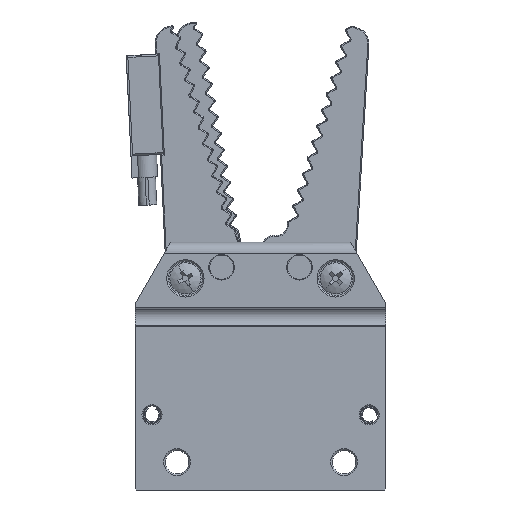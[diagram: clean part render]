
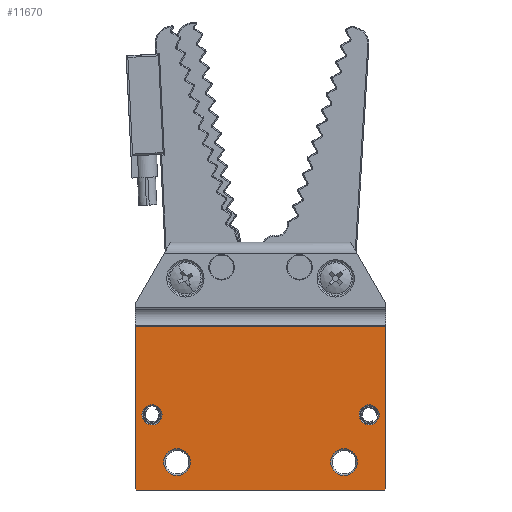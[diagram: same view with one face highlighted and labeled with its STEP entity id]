
A CAD part, front view. The second image highlights one B-rep face of the part: STEP entity #11670.
In plain terms, the highlighted planar face has unit normal (0, -1, 0).
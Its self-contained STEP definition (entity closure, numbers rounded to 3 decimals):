
#5304=PLANE('',#28905);
#6440=CIRCLE('',#28806,2.4);
#6442=CIRCLE('',#28809,2.4);
#6463=CIRCLE('',#28840,1.8);
#6466=CIRCLE('',#28844,1.8);
#7767=LINE('',#39966,#9703);
#7819=LINE('',#40094,#9755);
#7827=LINE('',#40109,#9763);
#7837=LINE('',#40139,#9773);
#7838=LINE('',#40140,#9774);
#7839=LINE('',#40141,#9775);
#9703=VECTOR('',#31859,1.);
#9755=VECTOR('',#31943,1.);
#9763=VECTOR('',#31955,1.);
#9773=VECTOR('',#31973,1.);
#9774=VECTOR('',#31974,1.);
#9775=VECTOR('',#31975,1.);
#11670=ADVANCED_FACE('',(#15071,#15072,#15073,#15074,#13577),#5304,.T.);
#13577=FACE_OUTER_BOUND('',#15311,.T.);
#15071=FACE_BOUND('',#15307,.T.);
#15072=FACE_BOUND('',#15308,.T.);
#15073=FACE_BOUND('',#15309,.T.);
#15074=FACE_BOUND('',#15310,.T.);
#15307=EDGE_LOOP('',(#17112));
#15308=EDGE_LOOP('',(#17113));
#15309=EDGE_LOOP('',(#17114));
#15310=EDGE_LOOP('',(#17115));
#15311=EDGE_LOOP('',(#17116,#17117,#17118,#17119,#17120,#17121));
#17112=ORIENTED_EDGE('',*,*,#25465,.T.);
#17113=ORIENTED_EDGE('',*,*,#25463,.T.);
#17114=ORIENTED_EDGE('',*,*,#25489,.T.);
#17115=ORIENTED_EDGE('',*,*,#25486,.T.);
#17116=ORIENTED_EDGE('',*,*,#25518,.F.);
#17117=ORIENTED_EDGE('',*,*,#25603,.T.);
#17118=ORIENTED_EDGE('',*,*,#25591,.T.);
#17119=ORIENTED_EDGE('',*,*,#25604,.T.);
#17120=ORIENTED_EDGE('',*,*,#25583,.T.);
#17121=ORIENTED_EDGE('',*,*,#25605,.T.);
#23540=VERTEX_POINT('',#39830);
#23542=VERTEX_POINT('',#39835);
#23563=VERTEX_POINT('',#39887);
#23566=VERTEX_POINT('',#39894);
#23591=VERTEX_POINT('',#39965);
#23592=VERTEX_POINT('',#39967);
#23651=VERTEX_POINT('',#40093);
#23652=VERTEX_POINT('',#40095);
#23657=VERTEX_POINT('',#40110);
#23658=VERTEX_POINT('',#40111);
#25463=EDGE_CURVE('',#23540,#23540,#6440,.T.);
#25465=EDGE_CURVE('',#23542,#23542,#6442,.T.);
#25486=EDGE_CURVE('',#23563,#23563,#6463,.T.);
#25489=EDGE_CURVE('',#23566,#23566,#6466,.T.);
#25518=EDGE_CURVE('',#23591,#23592,#7767,.T.);
#25583=EDGE_CURVE('',#23652,#23651,#7819,.T.);
#25591=EDGE_CURVE('',#23657,#23658,#7827,.T.);
#25603=EDGE_CURVE('',#23591,#23657,#7837,.T.);
#25604=EDGE_CURVE('',#23658,#23652,#7838,.T.);
#25605=EDGE_CURVE('',#23651,#23592,#7839,.T.);
#28806=AXIS2_PLACEMENT_3D('',#39829,#31697,#31698);
#28809=AXIS2_PLACEMENT_3D('',#39834,#31703,#31704);
#28840=AXIS2_PLACEMENT_3D('',#39886,#31765,#31766);
#28844=AXIS2_PLACEMENT_3D('',#39893,#31773,#31774);
#28905=AXIS2_PLACEMENT_3D('',#40142,#31976,#31977);
#31697=DIRECTION('',(0.,1.,0.));
#31698=DIRECTION('',(0.,0.,-1.));
#31703=DIRECTION('',(0.,1.,0.));
#31704=DIRECTION('',(0.,0.,-1.));
#31765=DIRECTION('',(0.,1.,0.));
#31766=DIRECTION('',(0.,0.,-1.));
#31773=DIRECTION('',(0.,1.,0.));
#31774=DIRECTION('',(0.,0.,-1.));
#31859=DIRECTION('',(0.,0.,1.));
#31943=DIRECTION('',(0.,0.,1.));
#31955=DIRECTION('',(1.,0.,0.));
#31973=DIRECTION('',(0.707,0.,-0.707));
#31974=DIRECTION('',(0.707,0.,0.707));
#31975=DIRECTION('',(-1.,0.,0.));
#31976=DIRECTION('',(0.,-1.,0.));
#31977=DIRECTION('',(0.,0.,-1.));
#39829=CARTESIAN_POINT('',(-15.,-12.5,-39.5));
#39830=CARTESIAN_POINT('',(-15.,-12.5,-41.9));
#39834=CARTESIAN_POINT('',(15.,-12.5,-39.5));
#39835=CARTESIAN_POINT('',(15.,-12.5,-41.9));
#39886=CARTESIAN_POINT('',(-19.5,-12.5,-31.));
#39887=CARTESIAN_POINT('',(-19.5,-12.5,-32.8));
#39893=CARTESIAN_POINT('',(19.5,-12.5,-31.));
#39894=CARTESIAN_POINT('',(19.5,-12.5,-32.8));
#39965=CARTESIAN_POINT('',(-22.5,-12.5,-44.3));
#39966=CARTESIAN_POINT('',(-22.5,-12.5,-44.5));
#39967=CARTESIAN_POINT('',(-22.5,-12.5,-15.2));
#40093=CARTESIAN_POINT('',(22.5,-12.5,-15.2));
#40094=CARTESIAN_POINT('',(22.5,-12.5,-44.5));
#40095=CARTESIAN_POINT('',(22.5,-12.5,-44.3));
#40109=CARTESIAN_POINT('',(-22.5,-12.5,-44.5));
#40110=CARTESIAN_POINT('',(-22.3,-12.5,-44.5));
#40111=CARTESIAN_POINT('',(22.3,-12.5,-44.5));
#40139=CARTESIAN_POINT('',(-22.4,-12.5,-44.4));
#40140=CARTESIAN_POINT('',(-0.1,-12.5,-66.9));
#40141=CARTESIAN_POINT('',(-22.5,-12.5,-15.2));
#40142=CARTESIAN_POINT('',(-22.5,-12.5,-44.5));
